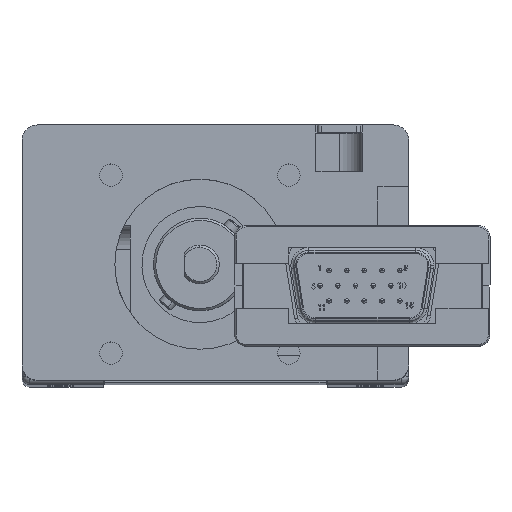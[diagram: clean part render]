
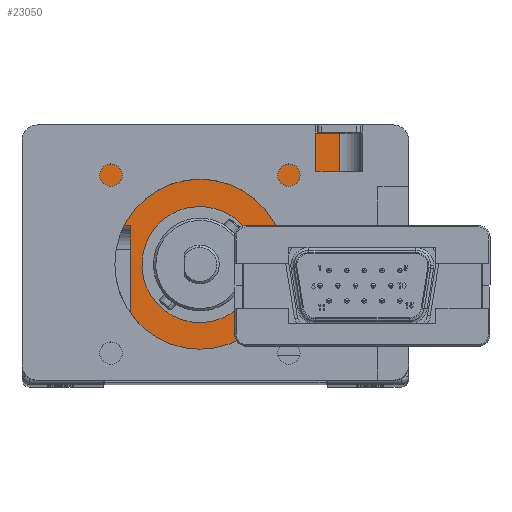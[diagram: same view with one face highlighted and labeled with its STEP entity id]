
A CAD part, top view. The second image highlights one B-rep face of the part: STEP entity #23050.
In plain terms, the highlighted planar face has unit normal (0, 0, 1).
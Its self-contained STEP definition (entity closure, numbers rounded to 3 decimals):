
#583 = EDGE_CURVE ( 'NONE', #69368, #8659, #93787, .T. ) ;
#3037 = CARTESIAN_POINT ( 'NONE',  ( 7., 9.175, 192. ) ) ;
#3201 = CARTESIAN_POINT ( 'NONE',  ( 4.928, 18.373, 192. ) ) ;
#3649 = ORIENTED_EDGE ( 'NONE', *, *, #94503, .F. ) ;
#8226 = CARTESIAN_POINT ( 'NONE',  ( 16., 13.5, 192. ) ) ;
#8659 = VERTEX_POINT ( 'NONE', #68682 ) ;
#9691 = CARTESIAN_POINT ( 'NONE',  ( -11., 9.175, 192. ) ) ;
#10511 = DIRECTION ( 'NONE',  ( 0., 0., -1. ) ) ;
#14647 = EDGE_CURVE ( 'NONE', #18900, #93490, #73660, .T. ) ;
#15873 = CARTESIAN_POINT ( 'NONE',  ( -2., 15.5, 192. ) ) ;
#16247 = CARTESIAN_POINT ( 'NONE',  ( -8.928, 12.627, 192. ) ) ;
#16551 = CARTESIAN_POINT ( 'NONE',  ( 16., 20.5, 192. ) ) ;
#16570 = DIRECTION ( 'NONE',  ( 0., 0., -1. ) ) ;
#17124 = EDGE_CURVE ( 'NONE', #64562, #40497, #92945, .T. ) ;
#17173 = CARTESIAN_POINT ( 'NONE',  ( -16., 32.5, 192. ) ) ;
#17316 = DIRECTION ( 'NONE',  ( 0., 1., 0. ) ) ;
#18900 = VERTEX_POINT ( 'NONE', #33722 ) ;
#19032 = ORIENTED_EDGE ( 'NONE', *, *, #31835, .T. ) ;
#20677 = FACE_BOUND ( 'NONE', #24775, .T. ) ;
#20750 = ORIENTED_EDGE ( 'NONE', *, *, #81244, .T. ) ;
#21619 = AXIS2_PLACEMENT_3D ( 'NONE', #15873, #41609, #24963 ) ;
#23050 = ADVANCED_FACE ( 'NONE', ( #20677, #92248 ), #51336, .F. ) ;
#23723 = CARTESIAN_POINT ( 'NONE',  ( -2., 20.5, 192. ) ) ;
#23892 = ORIENTED_EDGE ( 'NONE', *, *, #583, .F. ) ;
#24775 = EDGE_LOOP ( 'NONE', ( #19032, #20750 ) ) ;
#24963 = DIRECTION ( 'NONE',  ( -1., 0., 0. ) ) ;
#25227 = DIRECTION ( 'NONE',  ( 1., 0., 0. ) ) ;
#26388 = EDGE_CURVE ( 'NONE', #18900, #46613, #36716, .T. ) ;
#27470 = VECTOR ( 'NONE', #95288, 1000. ) ;
#31835 = EDGE_CURVE ( 'NONE', #51061, #85909, #100612, .T. ) ;
#33722 = CARTESIAN_POINT ( 'NONE',  ( 7., 20.5, 192. ) ) ;
#36716 = LINE ( 'NONE', #79184, #105037 ) ;
#39829 = DIRECTION ( 'NONE',  ( 1., 0., 0. ) ) ;
#40497 = VERTEX_POINT ( 'NONE', #17173 ) ;
#41609 = DIRECTION ( 'NONE',  ( 0., 0., -1. ) ) ;
#41879 = LINE ( 'NONE', #81166, #95659 ) ;
#41903 = DIRECTION ( 'NONE',  ( -1., 0., 0. ) ) ;
#43260 = DIRECTION ( 'NONE',  ( -1., 0., 0. ) ) ;
#43384 = VECTOR ( 'NONE', #39829, 1000. ) ;
#44921 = CARTESIAN_POINT ( 'NONE',  ( 16., 32.5, 192. ) ) ;
#46613 = VERTEX_POINT ( 'NONE', #3037 ) ;
#49382 = AXIS2_PLACEMENT_3D ( 'NONE', #84140, #10511, #43260 ) ;
#50394 = DIRECTION ( 'NONE',  ( 1., 0., 0. ) ) ;
#50500 = CARTESIAN_POINT ( 'NONE',  ( -2., 15.5, 192. ) ) ;
#51061 = VERTEX_POINT ( 'NONE', #16247 ) ;
#51336 = PLANE ( 'NONE',  #49382 ) ;
#51931 = CARTESIAN_POINT ( 'NONE',  ( -16., 20.5, 192. ) ) ;
#53399 = ORIENTED_EDGE ( 'NONE', *, *, #66034, .T. ) ;
#53836 = LINE ( 'NONE', #62432, #27470 ) ;
#54232 = CIRCLE ( 'NONE', #21619, 7.5 ) ;
#54236 = AXIS2_PLACEMENT_3D ( 'NONE', #50500, #75745, #41903 ) ;
#54300 = ORIENTED_EDGE ( 'NONE', *, *, #80532, .T. ) ;
#54401 = EDGE_LOOP ( 'NONE', ( #98125, #62877, #54300, #23892, #3649, #73925, #100056, #53399 ) ) ;
#58808 = CARTESIAN_POINT ( 'NONE',  ( -11., 20.5, 192. ) ) ;
#62432 = CARTESIAN_POINT ( 'NONE',  ( 16., 32.5, 192. ) ) ;
#62877 = ORIENTED_EDGE ( 'NONE', *, *, #17124, .F. ) ;
#64562 = VERTEX_POINT ( 'NONE', #51931 ) ;
#66034 = EDGE_CURVE ( 'NONE', #93490, #81105, #81838, .T. ) ;
#67406 = DIRECTION ( 'NONE',  ( 0., 1., 0. ) ) ;
#68682 = CARTESIAN_POINT ( 'NONE',  ( -11., 20.5, 192. ) ) ;
#69368 = VERTEX_POINT ( 'NONE', #9691 ) ;
#72987 = CARTESIAN_POINT ( 'NONE',  ( -2., 15.5, 192. ) ) ;
#73660 = LINE ( 'NONE', #23723, #43384 ) ;
#73925 = ORIENTED_EDGE ( 'NONE', *, *, #26388, .F. ) ;
#75745 = DIRECTION ( 'NONE',  ( 0., 0., -1. ) ) ;
#79184 = CARTESIAN_POINT ( 'NONE',  ( 7., 20.5, 192. ) ) ;
#80532 = EDGE_CURVE ( 'NONE', #64562, #8659, #41879, .T. ) ;
#81105 = VERTEX_POINT ( 'NONE', #44921 ) ;
#81166 = CARTESIAN_POINT ( 'NONE',  ( -2., 20.5, 192. ) ) ;
#81244 = EDGE_CURVE ( 'NONE', #85909, #51061, #54232, .T. ) ;
#81838 = LINE ( 'NONE', #8226, #93929 ) ;
#84140 = CARTESIAN_POINT ( 'NONE',  ( 16., 13.5, 192. ) ) ;
#84508 = VECTOR ( 'NONE', #67406, 1000. ) ;
#84852 = DIRECTION ( 'NONE',  ( 0., 1., 0. ) ) ;
#85772 = EDGE_CURVE ( 'NONE', #40497, #81105, #53836, .T. ) ;
#85909 = VERTEX_POINT ( 'NONE', #3201 ) ;
#86032 = AXIS2_PLACEMENT_3D ( 'NONE', #72987, #16570, #50394 ) ;
#86476 = VECTOR ( 'NONE', #84852, 1000. ) ;
#92248 = FACE_OUTER_BOUND ( 'NONE', #54401, .T. ) ;
#92945 = LINE ( 'NONE', #101543, #86476 ) ;
#93490 = VERTEX_POINT ( 'NONE', #16551 ) ;
#93787 = LINE ( 'NONE', #58808, #84508 ) ;
#93929 = VECTOR ( 'NONE', #17316, 1000. ) ;
#94503 = EDGE_CURVE ( 'NONE', #46613, #69368, #96355, .T. ) ;
#95288 = DIRECTION ( 'NONE',  ( 1., 0., 0. ) ) ;
#95384 = DIRECTION ( 'NONE',  ( 0., -1., 0. ) ) ;
#95659 = VECTOR ( 'NONE', #25227, 1000. ) ;
#96355 = CIRCLE ( 'NONE', #86032, 11. ) ;
#98125 = ORIENTED_EDGE ( 'NONE', *, *, #85772, .F. ) ;
#100056 = ORIENTED_EDGE ( 'NONE', *, *, #14647, .T. ) ;
#100612 = CIRCLE ( 'NONE', #54236, 7.5 ) ;
#101543 = CARTESIAN_POINT ( 'NONE',  ( -16., 13.5, 192. ) ) ;
#105037 = VECTOR ( 'NONE', #95384, 1000. ) ;
